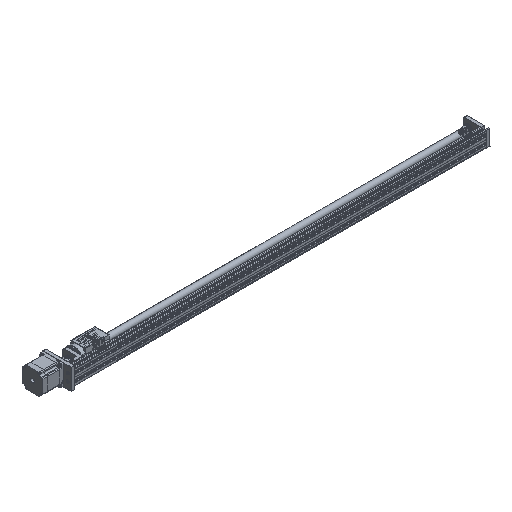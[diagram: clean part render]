
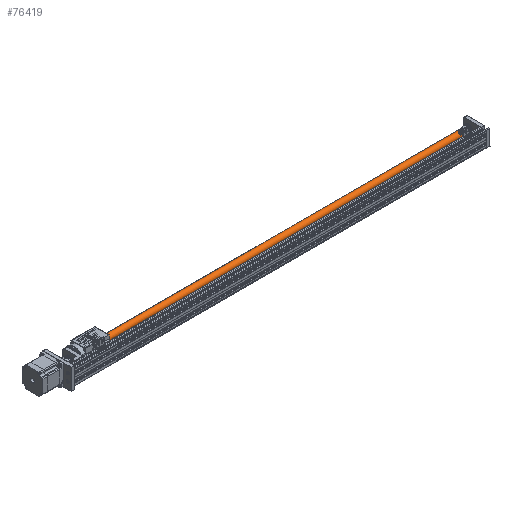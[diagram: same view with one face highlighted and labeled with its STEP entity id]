
A CAD part, isometric view. The second image highlights one B-rep face of the part: STEP entity #76419.
In plain terms, the highlighted cylindrical face has radius 8 mm (diameter 16 mm), a partial arc.
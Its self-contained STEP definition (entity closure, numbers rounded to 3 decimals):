
#3047 = CARTESIAN_POINT ( 'NONE',  ( -8., 0., 1116. ) ) ;
#4336 = EDGE_CURVE ( 'NONE', #60571, #63894, #87373, .T. ) ;
#6536 = CARTESIAN_POINT ( 'NONE',  ( 8., 0., 1116. ) ) ;
#7383 = AXIS2_PLACEMENT_3D ( 'NONE', #8900, #85234, #24054 ) ;
#8422 = LINE ( 'NONE', #3047, #33180 ) ;
#8877 = DIRECTION ( 'NONE',  ( 0., 0., -1. ) ) ;
#8900 = CARTESIAN_POINT ( 'NONE',  ( 0., 0., 9.2 ) ) ;
#11424 = ORIENTED_EDGE ( 'NONE', *, *, #4336, .F. ) ;
#12781 = DIRECTION ( 'NONE',  ( 0., 0., -1. ) ) ;
#14397 = VERTEX_POINT ( 'NONE', #20258 ) ;
#17465 = DIRECTION ( 'NONE',  ( 1., 0., 0. ) ) ;
#20258 = CARTESIAN_POINT ( 'NONE',  ( -8., 0., 9.2 ) ) ;
#20851 = AXIS2_PLACEMENT_3D ( 'NONE', #51400, #58520, #17465 ) ;
#21805 = EDGE_CURVE ( 'NONE', #60571, #28460, #80797, .T. ) ;
#21855 = CARTESIAN_POINT ( 'NONE',  ( -8., 0., 1091.8 ) ) ;
#22251 = CARTESIAN_POINT ( 'NONE',  ( 0., 0., 1116. ) ) ;
#23478 = CARTESIAN_POINT ( 'NONE',  ( 8., 0., 9.2 ) ) ;
#24054 = DIRECTION ( 'NONE',  ( -1., 0., 0. ) ) ;
#24447 = CIRCLE ( 'NONE', #7383, 8. ) ;
#28460 = VERTEX_POINT ( 'NONE', #21855 ) ;
#33180 = VECTOR ( 'NONE', #62876, 1000. ) ;
#37767 = ORIENTED_EDGE ( 'NONE', *, *, #21805, .T. ) ;
#51400 = CARTESIAN_POINT ( 'NONE',  ( 0., 0., 1091.8 ) ) ;
#52059 = ORIENTED_EDGE ( 'NONE', *, *, #87829, .T. ) ;
#52521 = CARTESIAN_POINT ( 'NONE',  ( 8., 0., 1091.8 ) ) ;
#55116 = EDGE_CURVE ( 'NONE', #14397, #63894, #24447, .T. ) ;
#55311 = CYLINDRICAL_SURFACE ( 'NONE', #71907, 8. ) ;
#56187 = DIRECTION ( 'NONE',  ( -1., 0., 0. ) ) ;
#58520 = DIRECTION ( 'NONE',  ( 0., 0., -1. ) ) ;
#60571 = VERTEX_POINT ( 'NONE', #52521 ) ;
#62876 = DIRECTION ( 'NONE',  ( 0., 0., -1. ) ) ;
#63894 = VERTEX_POINT ( 'NONE', #23478 ) ;
#71907 = AXIS2_PLACEMENT_3D ( 'NONE', #22251, #8877, #56187 ) ;
#72155 = EDGE_LOOP ( 'NONE', ( #11424, #37767, #52059, #82235 ) ) ;
#76419 = ADVANCED_FACE ( 'NONE', ( #83885 ), #55311, .T. ) ;
#80797 = CIRCLE ( 'NONE', #20851, 8. ) ;
#82235 = ORIENTED_EDGE ( 'NONE', *, *, #55116, .T. ) ;
#83885 = FACE_OUTER_BOUND ( 'NONE', #72155, .T. ) ;
#83931 = VECTOR ( 'NONE', #12781, 1000. ) ;
#85234 = DIRECTION ( 'NONE',  ( 0., 0., 1. ) ) ;
#87373 = LINE ( 'NONE', #6536, #83931 ) ;
#87829 = EDGE_CURVE ( 'NONE', #28460, #14397, #8422, .T. ) ;
